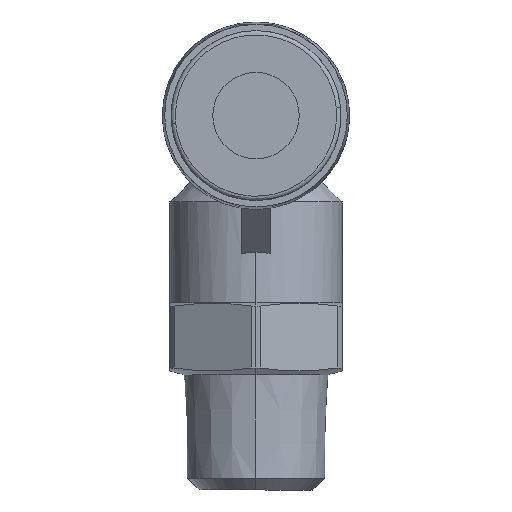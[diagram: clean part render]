
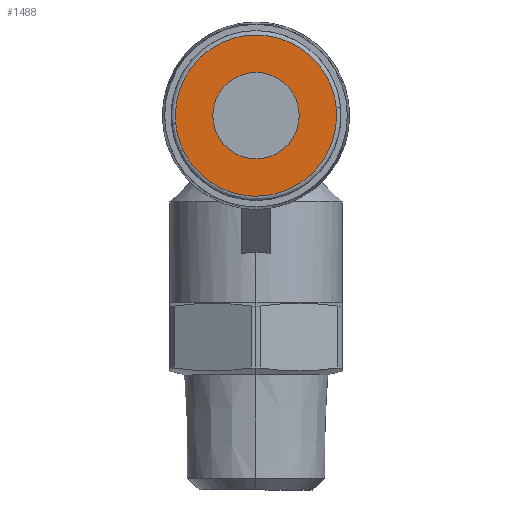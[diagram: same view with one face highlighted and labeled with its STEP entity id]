
A CAD part, left-side view. The second image highlights one B-rep face of the part: STEP entity #1488.
In plain terms, the highlighted planar face has unit normal (-1, 0, 0).
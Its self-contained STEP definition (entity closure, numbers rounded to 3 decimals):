
#193 = DIRECTION ( 'NONE',  ( 0., 0., 1. ) ) ;
#278 = CARTESIAN_POINT ( 'NONE',  ( -20.15, -4.616, 36.708 ) ) ;
#289 = CARTESIAN_POINT ( 'NONE',  ( -20.15, -5.6, 26. ) ) ;
#298 = CARTESIAN_POINT ( 'NONE',  ( -20.15, -5.575, 26.525 ) ) ;
#375 = CARTESIAN_POINT ( 'NONE',  ( -20.15, -6.1, 19.9 ) ) ;
#396 = EDGE_CURVE ( 'NONE', #752, #1052, #2898, .T. ) ;
#469 = EDGE_CURVE ( 'NONE', #2973, #2701, #3062, .T. ) ;
#491 = DIRECTION ( 'NONE',  ( 1., 0., 0. ) ) ;
#579 = CARTESIAN_POINT ( 'NONE',  ( -20.15, 5.6, 25.825 ) ) ;
#593 = ORIENTED_EDGE ( 'NONE', *, *, #1444, .F. ) ;
#638 = EDGE_LOOP ( 'NONE', ( #862, #724 ) ) ;
#642 = DIRECTION ( 'NONE',  ( 1., 0., 0. ) ) ;
#677 = FACE_OUTER_BOUND ( 'NONE', #1334, .T. ) ;
#724 = ORIENTED_EDGE ( 'NONE', *, *, #469, .T. ) ;
#752 = VERTEX_POINT ( 'NONE', #3480 ) ;
#793 = CARTESIAN_POINT ( 'NONE',  ( -20.15, -5.575, 26.525 ) ) ;
#862 = ORIENTED_EDGE ( 'NONE', *, *, #2255, .T. ) ;
#914 = CARTESIAN_POINT ( 'NONE',  ( -20.15, 0., 23. ) ) ;
#920 = DIRECTION ( 'NONE',  ( 0., 0., 1. ) ) ;
#1052 = VERTEX_POINT ( 'NONE', #2876 ) ;
#1115 = CARTESIAN_POINT ( 'NONE',  ( -20.15, -5.575, 26.525 ) ) ;
#1154 =( BOUNDED_CURVE ( )  B_SPLINE_CURVE ( 3, ( #793, #1990, #3797, #1369 ),
 .UNSPECIFIED., .F., .T. ) 
 B_SPLINE_CURVE_WITH_KNOTS ( ( 4, 4 ),
 ( 0.97, 1. ),
 .UNSPECIFIED. ) 
 CURVE ( )  GEOMETRIC_REPRESENTATION_ITEM ( )  RATIONAL_B_SPLINE_CURVE ( ( 1., 0.999, 0.999, 1. ) ) 
 REPRESENTATION_ITEM ( '' )  );
#1163 = CARTESIAN_POINT ( 'NONE',  ( -20.15, 5.575, 25.475 ) ) ;
#1213 = CARTESIAN_POINT ( 'NONE',  ( -20.15, 5.592, 25.649 ) ) ;
#1221 = DIRECTION ( 'NONE',  ( -1., 0., 0. ) ) ;
#1282 = CARTESIAN_POINT ( 'NONE',  ( -20.15, -5.6, 15.772 ) ) ;
#1334 = EDGE_LOOP ( 'NONE', ( #1451, #2681, #593, #3271 ) ) ;
#1342 = AXIS2_PLACEMENT_3D ( 'NONE', #3042, #642, #920 ) ;
#1346 = VERTEX_POINT ( 'NONE', #1115 ) ;
#1369 = CARTESIAN_POINT ( 'NONE',  ( -20.15, -5.6, 26. ) ) ;
#1444 = EDGE_CURVE ( 'NONE', #1657, #752, #3575, .T. ) ;
#1451 = ORIENTED_EDGE ( 'NONE', *, *, #3774, .F. ) ;
#1486 = CARTESIAN_POINT ( 'NONE',  ( -20.15, 5.575, 25.475 ) ) ;
#1488 = ADVANCED_FACE ( '24', ( #2726, #677 ), #3096, .T. ) ;
#1537 = EDGE_CURVE ( 'NONE', #1346, #1657, #1154, .T. ) ;
#1657 = VERTEX_POINT ( 'NONE', #3652 ) ;
#1773 = CARTESIAN_POINT ( 'NONE',  ( -20.15, 5.6, 36.228 ) ) ;
#1990 = CARTESIAN_POINT ( 'NONE',  ( -20.15, -5.592, 26.351 ) ) ;
#2105 =( BOUNDED_CURVE ( )  B_SPLINE_CURVE ( 3, ( #3041, #1773, #278, #298 ),
 .UNSPECIFIED., .F., .F. ) 
 B_SPLINE_CURVE_WITH_KNOTS ( ( 4, 4 ),
 ( 0., 0.97 ),
 .UNSPECIFIED. ) 
 CURVE ( )  GEOMETRIC_REPRESENTATION_ITEM ( )  RATIONAL_B_SPLINE_CURVE ( ( 1., 0.365, 0.365, 1. ) ) 
 REPRESENTATION_ITEM ( '' )  );
#2255 = EDGE_CURVE ( 'NONE', #2701, #2973, #2439, .T. ) ;
#2299 = CARTESIAN_POINT ( 'NONE',  ( -20.15, 0., 29. ) ) ;
#2439 = CIRCLE ( 'NONE', #3077, 3. ) ;
#2681 = ORIENTED_EDGE ( 'NONE', *, *, #396, .F. ) ;
#2697 = CARTESIAN_POINT ( 'NONE',  ( -20.15, 5.6, 26. ) ) ;
#2701 = VERTEX_POINT ( 'NONE', #2299 ) ;
#2726 = FACE_BOUND ( 'NONE', #638, .T. ) ;
#2747 = CARTESIAN_POINT ( 'NONE',  ( -20.15, 4.616, 15.292 ) ) ;
#2796 = DIRECTION ( 'NONE',  ( 0., 0., 1. ) ) ;
#2876 = CARTESIAN_POINT ( 'NONE',  ( -20.15, 5.6, 26. ) ) ;
#2898 =( BOUNDED_CURVE ( )  B_SPLINE_CURVE ( 3, ( #1163, #1213, #579, #2697 ),
 .UNSPECIFIED., .F., .T. ) 
 B_SPLINE_CURVE_WITH_KNOTS ( ( 4, 4 ),
 ( 0.97, 1. ),
 .UNSPECIFIED. ) 
 CURVE ( )  GEOMETRIC_REPRESENTATION_ITEM ( )  RATIONAL_B_SPLINE_CURVE ( ( 1., 0.999, 0.999, 1. ) ) 
 REPRESENTATION_ITEM ( '' )  );
#2902 = CARTESIAN_POINT ( 'NONE',  ( -20.15, 0., 26. ) ) ;
#2973 = VERTEX_POINT ( 'NONE', #914 ) ;
#3041 = CARTESIAN_POINT ( 'NONE',  ( -20.15, 5.6, 26. ) ) ;
#3042 = CARTESIAN_POINT ( 'NONE',  ( -20.15, 0., 26. ) ) ;
#3062 = CIRCLE ( 'NONE', #1342, 3. ) ;
#3077 = AXIS2_PLACEMENT_3D ( 'NONE', #2902, #491, #193 ) ;
#3096 = PLANE ( 'NONE',  #3368 ) ;
#3271 = ORIENTED_EDGE ( 'NONE', *, *, #1537, .F. ) ;
#3368 = AXIS2_PLACEMENT_3D ( 'NONE', #375, #1221, #2796 ) ;
#3480 = CARTESIAN_POINT ( 'NONE',  ( -20.15, 5.575, 25.475 ) ) ;
#3575 =( BOUNDED_CURVE ( )  B_SPLINE_CURVE ( 3, ( #289, #1282, #2747, #1486 ),
 .UNSPECIFIED., .F., .T. ) 
 B_SPLINE_CURVE_WITH_KNOTS ( ( 4, 4 ),
 ( 0., 0.97 ),
 .UNSPECIFIED. ) 
 CURVE ( )  GEOMETRIC_REPRESENTATION_ITEM ( )  RATIONAL_B_SPLINE_CURVE ( ( 1., 0.365, 0.365, 1. ) ) 
 REPRESENTATION_ITEM ( '' )  );
#3652 = CARTESIAN_POINT ( 'NONE',  ( -20.15, -5.6, 26. ) ) ;
#3774 = EDGE_CURVE ( 'NONE', #1052, #1346, #2105, .T. ) ;
#3797 = CARTESIAN_POINT ( 'NONE',  ( -20.15, -5.6, 26.175 ) ) ;
